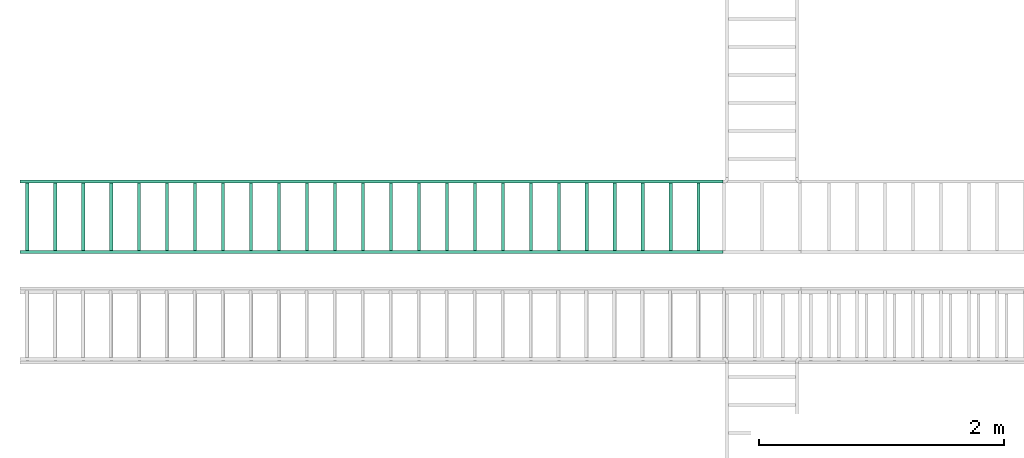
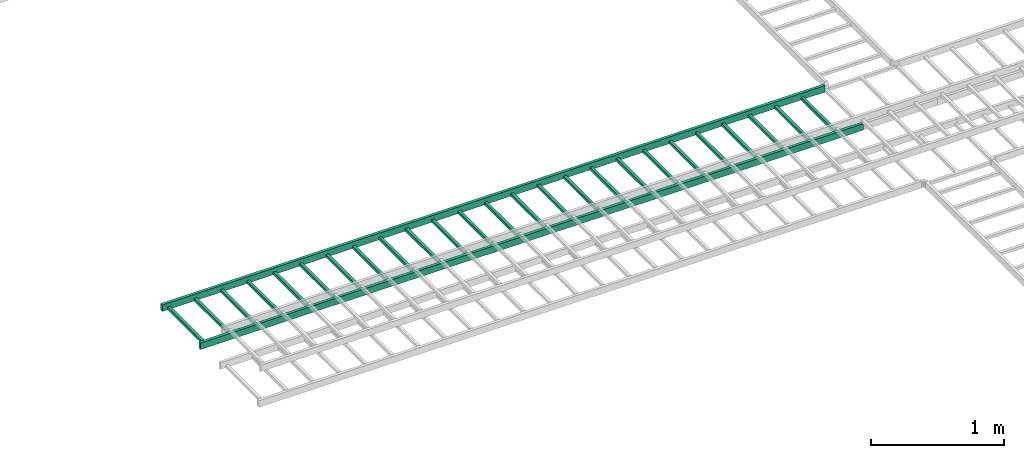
# One storey, part 5 of 7: 1 flow segment.
"""IFC2X3 building model written with IfcOpenShell, lengths in millimetres."""

import ifcopenshell
import ifcopenshell.guid

model = None  # the IFC model being written
_history = None  # IfcOwnerHistory: only IFC2X3 demands one
_inside = {}  # id of a spatial element -> (the spatial element, [elements in it])
_under = {}  # id of a project, library or spatial element -> (it, [spatial elements below it])
_declared = {}  # id of a project -> (the project, [libraries it declares])
_typed = {}  # id of a type object -> (the type object, [elements of that type])
_made_of = {}  # id of a material, layer set ... -> (it, [elements and type objects made of it])


def new_model(schema):
    """Start an empty IFC model of exactly this schema.

    Asked for "IFC4X3", IfcOpenShell would pick the latest addendum, in which some entities
    have other attributes; the version numbers below select the first issue.
    IFC2X3 requires an IfcOwnerHistory on every rooted entity: one is made here for all.
    """
    global model, _history
    if schema == "IFC4X3":
        model = ifcopenshell.file(schema_version=(4, 3, 0, 0))
    else:
        model = ifcopenshell.file(schema=schema)
    _inside.clear()
    _under.clear()
    _declared.clear()
    _typed.clear()
    _made_of.clear()
    _history = None
    if model.schema == "IFC2X3":
        org = make("IfcOrganization", Name="unknown")
        user = make(
            "IfcPersonAndOrganization",
            ThePerson=make("IfcPerson", FamilyName="unknown"),
            TheOrganization=org,
        )
        app = make(
            "IfcApplication",
            ApplicationDeveloper=org,
            Version="unknown",
            ApplicationFullName="unknown",
            ApplicationIdentifier="unknown",
        )
        _history = make(
            "IfcOwnerHistory",
            OwningUser=user,
            OwningApplication=app,
            ChangeAction="ADDED",
            CreationDate=0,
        )
    return model


def make(cls, **values):
    """One entity of the class cls with the attributes given. An attribute that is None is left unset."""
    return model.create_entity(
        cls, **{name: value for name, value in values.items() if value is not None}
    )


def entity(cls, *values):
    """Any entity or typed value of the class cls, its attributes in the order of the schema. None: left unset."""
    e = model.create_entity(cls)
    for i, value in enumerate(values):
        if value is not None:
            e[i] = value
    return e


def rooted(cls, **values):
    """An entity with a GlobalId (a new one), such as an element, a storey or a relation."""
    return make(cls, GlobalId=ifcopenshell.guid.new(), OwnerHistory=_history, **values)


def si_unit(unit_type, name, prefix=None):
    """IfcSIUnit, for example si_unit("LENGTHUNIT", "METRE", prefix="MILLI")."""
    return make("IfcSIUnit", UnitType=unit_type, Prefix=prefix, Name=name)


def converted_unit(unit_type, name, factor, base, dimensions=None, offset=None):
    """IfcConversionBasedUnit, such as the inch: factor (a typed value) times the base unit."""
    return make(
        "IfcConversionBasedUnit"
        if offset is None
        else "IfcConversionBasedUnitWithOffset",
        ConversionOffset=offset,
        Dimensions=None
        if dimensions is None
        else entity("IfcDimensionalExponents", *dimensions),
        UnitType=unit_type,
        Name=name,
        ConversionFactor=make(
            "IfcMeasureWithUnit", ValueComponent=factor, UnitComponent=base
        ),
    )


def derived_unit(unit_type, elements):
    """IfcDerivedUnit: a product of units, each with its exponent."""
    return make(
        "IfcDerivedUnit",
        Elements=[
            make("IfcDerivedUnitElement", Unit=unit, Exponent=power)
            for unit, power in elements
        ],
        UnitType=unit_type,
    )


def assignment(units):
    """IfcUnitAssignment: the units of a project."""
    return None if units is None else make("IfcUnitAssignment", Units=units)


def point(xyz):
    """IfcCartesianPoint."""
    return None if xyz is None else make("IfcCartesianPoint", Coordinates=xyz)


def direction(xyz):
    """IfcDirection."""
    return None if xyz is None else make("IfcDirection", DirectionRatios=xyz)


def frame(location, z_axis=None, x_axis=None):
    """IfcAxis2Placement3D, a coordinate frame: its origin and axes. An axis left out is left unset."""
    return make(
        "IfcAxis2Placement3D",
        Location=point(location),
        Axis=direction(z_axis),
        RefDirection=direction(x_axis),
    )


def place(relative_to, where):
    """IfcLocalPlacement: puts the frame where relative to a parent placement (None: the world)."""
    return make(
        "IfcLocalPlacement", PlacementRelTo=relative_to, RelativePlacement=where
    )


def context(
    kind, dimensions, precision=None, world=None, true_north=None, identifier=None
):
    """IfcGeometricRepresentationContext, for example the 3D "Model" context."""
    return make(
        "IfcGeometricRepresentationContext",
        ContextIdentifier=identifier,
        ContextType=kind,
        CoordinateSpaceDimension=dimensions,
        Precision=precision,
        WorldCoordinateSystem=world,
        TrueNorth=true_north,
    )


def subcontext(parent, identifier, kind, view, scale=None):
    """IfcGeometricRepresentationSubContext, for example "Body" below "Model"."""
    return make(
        "IfcGeometricRepresentationSubContext",
        ContextIdentifier=identifier,
        ContextType=kind,
        ParentContext=parent,
        TargetScale=scale,
        TargetView=view,
    )


def project(units=None, contexts=None):
    """IfcProject with its units and contexts."""
    return rooted(
        "IfcProject",
        Name="project",
        RepresentationContexts=contexts,
        UnitsInContext=assignment(units),
    )


def spatial(cls, under=None, at=None, **own):
    """A site, building, storey or space (cls), placed at a placement, below another one or the project."""
    s = rooted(cls, ObjectPlacement=at, **own)
    if under is not None:
        _under.setdefault(under.id(), (under, []))[1].append(s)
    return s


def faces_of(points, faces, orient=None, outer=None):
    """IfcFace entities. A face is a list of loops; a loop is a list of indices into points, from 0.

    orient and outer hold one flag for each loop. By default every Orientation is true, the
    first loop of a face is its IfcFaceOuterBound and the others are IfcFaceBound.
    """
    made = []
    for i, loops in enumerate(faces):
        bounds = []
        for j, loop in enumerate(loops):
            is_outer = j == 0 if outer is None else outer[i][j]
            bounds.append(
                make(
                    "IfcFaceOuterBound" if is_outer else "IfcFaceBound",
                    Bound=make("IfcPolyLoop", Polygon=[points[k] for k in loop]),
                    Orientation=True if orient is None else orient[i][j],
                )
            )
        made.append(make("IfcFace", Bounds=bounds))
    return made


def faceted_brep(points, faces, orient=None, outer=None, voids=None):
    """IfcFacetedBrep: a solid bounded by flat faces; with voids (closed shells), ...WithVoids."""
    shared = [point(p) for p in points]
    hull = make("IfcClosedShell", CfsFaces=faces_of(shared, faces, orient, outer))
    if voids is None:
        return make("IfcFacetedBrep", Outer=hull)
    return make(
        "IfcFacetedBrepWithVoids",
        Outer=hull,
        Voids=[
            make(cls, CfsFaces=faces_of(shared, fs, o, b)) for cls, fs, o, b in voids
        ],
    )


def shape(context_of_items, identifier, shape_type, items):
    """IfcShapeRepresentation: the items that make up one representation, for example the "Body"."""
    return make(
        "IfcShapeRepresentation",
        ContextOfItems=context_of_items,
        RepresentationIdentifier=identifier,
        RepresentationType=shape_type,
        Items=items,
    )


def made_of(thing, what):
    """Note that an element or type object is made of a material, layer set ...; save() writes the relation."""
    if what is not None:
        _made_of.setdefault(what.id(), (what, []))[1].append(thing)
    return thing


def type_object(cls, material=None, **own):
    """A type object (cls), such as IfcWallType, which elements share."""
    return made_of(rooted(cls, **own), material)


def element(
    cls,
    number,
    at=None,
    inside=None,
    cuts=None,
    type_object=None,
    material=None,
    context=None,
    identifier="Body",
    shape_type=None,
    held_by="IfcProductDefinitionShape",
    body=None,
    shapes=None,
    **own,
):
    """One element of the class cls, such as IfcWall. Its Tag is "e" and its number.

    at: its placement. inside: the storey or other place that contains it. cuts: it is an
    opening in that element (IfcRelVoidsElement). A single representation is given by context,
    identifier, shape_type and body (its items); several are given by shapes. held_by: the class
    of the entity that holds the representations. save() writes the other relations.
    """
    e = rooted(cls, Tag="e%d" % number, ObjectPlacement=at, **own)
    if body is not None:
        shapes = [shape(context, identifier, shape_type, body)]
    if shapes is not None:
        e.Representation = make(held_by, Representations=shapes)
    if inside is not None:
        _inside.setdefault(inside.id(), (inside, []))[1].append(e)
    if cuts is not None:
        rooted(
            "IfcRelVoidsElement", RelatingBuildingElement=cuts, RelatedOpeningElement=e
        )
    if type_object is not None:
        _typed.setdefault(type_object.id(), (type_object, []))[1].append(e)
    return made_of(e, material)


def aggregate(whole, parts):
    """IfcRelAggregates: a whole, such as a stair, and the parts it consists of."""
    return rooted("IfcRelAggregates", RelatingObject=whole, RelatedObjects=parts)


def save(model, path):
    """Write the relations noted so far, then the file.

    IfcRelAggregates (storeys below a building ...), IfcRelContainedInSpatialStructure (elements
    in a storey), IfcRelDefinesByType, IfcRelAssociatesMaterial and IfcRelDeclares: one each for
    every whole, place, type object, material and project.
    """
    for whole, parts in _under.values():
        aggregate(whole, parts)
    for where, things in _inside.values():
        rooted(
            "IfcRelContainedInSpatialStructure",
            RelatedElements=things,
            RelatingStructure=where,
        )
    for kind, things in _typed.values():
        rooted("IfcRelDefinesByType", RelatedObjects=things, RelatingType=kind)
    for what, things in _made_of.values():
        rooted("IfcRelAssociatesMaterial", RelatedObjects=things, RelatingMaterial=what)
    for by, libraries in _declared.values():
        rooted("IfcRelDeclares", RelatingContext=by, RelatedDefinitions=libraries)
    model.write(path)


model = new_model("IFC2X3")

# Units and contexts
model_context = context("Model", 3, precision=0.01, world=frame((0.0, 4.29681676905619e-09, 0.0)), true_north=direction((4.01073788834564e-13, 1.0)))
plan_context = context("Plan", 3, precision=0.01, world=frame((0.0, 4.29681676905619e-09, 0.0)), true_north=direction((4.01073788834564e-13, 1.0)))
body_context = subcontext(model_context, "Body", "Model", "MODEL_VIEW")
ifc_project = project(units=[converted_unit("PLANEANGLEUNIT", "DEGREE", entity("IfcPositiveLengthMeasure", 0.0174532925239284), si_unit("PLANEANGLEUNIT", "RADIAN"), dimensions=[0, 0, 0, 0, 0, 0, 0]), si_unit("AREAUNIT", "SQUARE_METRE"), si_unit("LENGTHUNIT", "METRE", prefix="MILLI"), si_unit("MASSUNIT", "GRAM", prefix="KILO"), si_unit("POWERUNIT", "WATT"), si_unit("PRESSUREUNIT", "PASCAL", prefix="KILO"), si_unit("FORCEUNIT", "NEWTON", prefix="KILO"), si_unit("ELECTRICVOLTAGEUNIT", "VOLT"), si_unit("ELECTRICCURRENTUNIT", "AMPERE"), si_unit("THERMODYNAMICTEMPERATUREUNIT", "DEGREE_CELSIUS"), si_unit("TIMEUNIT", "SECOND"), si_unit("VOLUMEUNIT", "CUBIC_METRE"), derived_unit("LINEARVELOCITYUNIT", [(si_unit("LENGTHUNIT", "METRE"), 1), (si_unit("TIMEUNIT", "SECOND"), -1)]), derived_unit("VOLUMETRICFLOWRATEUNIT", [(si_unit("VOLUMEUNIT", "CUBIC_METRE"), 1), (si_unit("TIMEUNIT", "SECOND"), -1)]), derived_unit("THERMALTRANSMITTANCEUNIT", [(si_unit("POWERUNIT", "WATT"), 1), (si_unit("THERMODYNAMICTEMPERATUREUNIT", "KELVIN"), -1), (si_unit("AREAUNIT", "SQUARE_METRE"), -1)]), derived_unit("SOUNDPRESSUREUNIT", [(si_unit("PRESSUREUNIT", "PASCAL"), 1)])], contexts=[model_context, plan_context])

# Site, building, storey
site_placement = place(None, frame((0.0, -4.29681676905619e-09, 0.0), z_axis=(0.0, 0.0, 1.0), x_axis=(1.0, 0.0, 0.0)))
site = spatial("IfcSite", under=ifc_project, at=site_placement, Name="ENGM", CompositionType="ELEMENT")
building_placement = place(site_placement, frame((0.0, 4.29681676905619e-09, 0.0), z_axis=(0.0, 0.0, 1.0), x_axis=(1.0, 0.0, 0.0)))
building = spatial("IfcBuilding", under=site, at=building_placement, Name="TS", CompositionType="ELEMENT")
storey_placement = place(building_placement, frame((0.0, 0.0, 207370.0), z_axis=(0.0, 0.0, 1.0), x_axis=(1.0, 0.0, 0.0)))
storey = spatial("IfcBuildingStorey", under=building, at=storey_placement, Name="Nivå E", CompositionType="ELEMENT", Elevation=207370.0)

# Flow segment
cable_carrier_segment_type = type_object("IfcCableCarrierSegmentType", Name="Kabelbro", PredefinedType="CABLELADDERSEGMENT")
flow_segment_placement = place(storey_placement, frame((711525.70397, 440899.11712, 2635.0), z_axis=(0.0, 0.0, 1.0), x_axis=(1.0, 0.0, 0.0)))
element("IfcFlowSegment", 1, at=flow_segment_placement, inside=storey, type_object=cable_carrier_segment_type, Name="Kabelbro", context=body_context, shape_type="Brep", body=[
    faceted_brep([(2984.5001, 274.60001, -4.6), (2984.5001, -274.60001, -30.0), (2984.5001, -274.60001, -4.6), (2984.5001, 274.60001, -30.0), (2959.0999, 274.60001, -30.0), (2959.0999, -274.60001, -4.6), (2959.0999, -274.60001, -30.0), (2959.0999, 274.60001, -4.6), (3213.1001, 274.60001, -4.6), (3213.1001, -274.60001, -30.0), (3213.1001, -274.60001, -4.6), (3213.1001, 274.60001, -30.0), (3187.6999, 274.60001, -30.0), (3187.6999, -274.60001, -4.6), (3187.6999, -274.60001, -30.0), (3187.6999, 274.60001, -4.6), (3441.7001, 274.60001, -4.6), (3441.7001, -274.60001, -30.0), (3441.7001, -274.60001, -4.6), (3441.7001, 274.60001, -30.0), (3416.2999, 274.60001, -30.0), (3416.2999, -274.60001, -4.6), (3416.2999, -274.60001, -30.0), (3416.2999, 274.60001, -4.6), (3670.3001, 274.60001, -4.6), (3670.3001, -274.60001, -30.0), (3670.3001, -274.60001, -4.6), (3670.3001, 274.60001, -30.0), (3644.8999, 274.60001, -30.0), (3644.8999, -274.60001, -4.6), (3644.8999, -274.60001, -30.0), (3644.8999, 274.60001, -4.6), (3898.9001, 274.60001, -4.6), (3898.9001, -274.60001, -30.0), (3898.9001, -274.60001, -4.6), (3898.9001, 274.60001, -30.0), (3873.4999, 274.60001, -30.0), (3873.4999, -274.60001, -4.6), (3873.4999, -274.60001, -30.0), (3873.4999, 274.60001, -4.6), (4127.5001, 274.60001, -4.6), (4127.5001, -274.60001, -30.0), (4127.5001, -274.60001, -4.6), (4127.5001, 274.60001, -30.0), (4102.0999, 274.60001, -30.0), (4102.0999, -274.60001, -4.6), (4102.0999, -274.60001, -30.0), (4102.0999, 274.60001, -4.6), (4356.1001, 274.60001, -4.6), (4356.1001, -274.60001, -30.0), (4356.1001, -274.60001, -4.6), (4356.1001, 274.60001, -30.0), (4330.6999, 274.60001, -30.0), (4330.6999, -274.60001, -4.6), (4330.6999, -274.60001, -30.0), (4330.6999, 274.60001, -4.6), (4584.7001, 274.60001, -4.6), (4584.7001, -274.60001, -30.0), (4584.7001, -274.60001, -4.6), (4584.7001, 274.60001, -30.0), (4559.2999, 274.60001, -30.0), (4559.2999, -274.60001, -4.6), (4559.2999, -274.60001, -30.0), (4559.2999, 274.60001, -4.6), (4813.3001, 274.60001, -4.6), (4813.3001, -274.60001, -30.0), (4813.3001, -274.60001, -4.6), (4813.3001, 274.60001, -30.0), (4787.8999, 274.60001, -30.0), (4787.8999, -274.60001, -4.6), (4787.8999, -274.60001, -30.0), (4787.8999, 274.60001, -4.6), (5041.89981, 274.60001, -4.6), (5041.89981, -274.60001, -30.0), (5041.89981, -274.60001, -4.6), (5041.89981, 274.60001, -30.0), (5016.50019, 274.60001, -30.0), (5016.50019, -274.60001, -4.6), (5016.50019, -274.60001, -30.0), (5016.50019, 274.60001, -4.6), (5270.49981, 274.60001, -4.6), (5270.49981, -274.60001, -30.0), (5270.49981, -274.60001, -4.6), (5270.49981, 274.60001, -30.0), (5245.10019, 274.60001, -30.0), (5245.10019, -274.60001, -4.6), (5245.10019, -274.60001, -30.0), (5245.10019, 274.60001, -4.6), (5499.09981, 274.60001, -4.6), (5499.09981, -274.60001, -30.0), (5499.09981, -274.60001, -4.6), (5499.09981, 274.60001, -30.0), (5473.70019, 274.60001, -30.0), (5473.70019, -274.60001, -4.6), (5473.70019, -274.60001, -30.0), (5473.70019, 274.60001, -4.6), (5727.69981, 274.60001, -4.6), (5727.69981, -274.60001, -30.0), (5727.69981, -274.60001, -4.6), (5727.69981, 274.60001, -30.0), (5702.30019, 274.60001, -30.0), (5702.30019, -274.60001, -4.6), (5702.30019, -274.60001, -30.0), (5702.30019, 274.60001, -4.6), (5956.29981, 274.60001, -4.6), (5956.29981, -274.60001, -30.0), (5956.29981, -274.60001, -4.6), (5956.29981, 274.60001, -30.0), (5930.90019, 274.60001, -30.0), (5930.90019, -274.60001, -4.6), (5930.90019, -274.60001, -30.0), (5930.90019, 274.60001, -4.6), (6184.89981, 274.60001, -4.6), (6184.89981, -274.60001, -30.0), (6184.89981, -274.60001, -4.6), (6184.89981, 274.60001, -30.0), (6159.50019, 274.60001, -30.0), (6159.50019, -274.60001, -4.6), (6159.50019, -274.60001, -30.0), (6159.50019, 274.60001, -4.6), (6413.49981, 274.60001, -4.6), (6413.49981, -274.60001, -30.0), (6413.49981, -274.60001, -4.6), (6413.49981, 274.60001, -30.0), (6388.10019, 274.60001, -30.0), (6388.10019, -274.60001, -4.6), (6388.10019, -274.60001, -30.0), (6388.10019, 274.60001, -4.6), (6642.09981, 274.60001, -4.6), (6642.09981, -274.60001, -30.0), (6642.09981, -274.60001, -4.6), (6642.09981, 274.60001, -30.0), (6616.70019, 274.60001, -30.0), (6616.70019, -274.60001, -4.6), (6616.70019, -274.60001, -30.0), (6616.70019, 274.60001, -4.6), (6870.69981, 274.60001, -4.6), (6870.69981, -274.60001, -30.0), (6870.69981, -274.60001, -4.6), (6870.69981, 274.60001, -30.0), (6845.30019, 274.60001, -30.0), (6845.30019, -274.60001, -4.6), (6845.30019, -274.60001, -30.0), (6845.30019, 274.60001, -4.6), (7099.29981, 274.60001, -4.6), (7099.29981, -274.60001, -30.0), (7099.29981, -274.60001, -4.6), (7099.29981, 274.60001, -30.0), (7073.90019, 274.60001, -30.0), (7073.90019, -274.60001, -4.6), (7073.90019, -274.60001, -30.0), (7073.90019, 274.60001, -4.6), (7327.89981, 274.60001, -4.6), (7327.89981, -274.60001, -30.0), (7327.89981, -274.60001, -4.6), (7327.89981, 274.60001, -30.0), (7302.50019, 274.60001, -30.0), (7302.50019, -274.60001, -4.6), (7302.50019, -274.60001, -30.0), (7302.50019, 274.60001, -4.6), (7556.49981, 274.60001, -4.6), (7556.49981, -274.60001, -30.0), (7556.49981, -274.60001, -4.6), (7556.49981, 274.60001, -30.0), (7531.10019, 274.60001, -30.0), (7531.10019, -274.60001, -4.6), (7531.10019, -274.60001, -30.0), (7531.10019, 274.60001, -4.6), (7785.09981, 274.60001, -4.6), (7785.09981, -274.60001, -30.0), (7785.09981, -274.60001, -4.6), (7785.09981, 274.60001, -30.0), (7759.70019, 274.60001, -30.0), (7759.70019, -274.60001, -4.6), (7759.70019, -274.60001, -30.0), (7759.70019, 274.60001, -4.6), (8013.69981, 274.60001, -4.6), (8013.69981, -274.60001, -30.0), (8013.69981, -274.60001, -4.6), (8013.69981, 274.60001, -30.0), (7988.30019, 274.60001, -30.0), (7988.30019, -274.60001, -4.6), (7988.30019, -274.60001, -30.0), (7988.30019, 274.60001, -4.6), (8242.29981, 274.60001, -4.6), (8242.29981, -274.60001, -30.0), (8242.29981, -274.60001, -4.6), (8242.29981, 274.60001, -30.0), (8216.90019, 274.60001, -30.0), (8216.90019, -274.60001, -4.6), (8216.90019, -274.60001, -30.0), (8216.90019, 274.60001, -4.6), (8470.89981, 274.60001, -4.6), (8470.89981, -274.60001, -30.0), (8470.89981, -274.60001, -4.6), (8470.89981, 274.60001, -30.0), (8445.50019, 274.60001, -30.0), (8445.50019, -274.60001, -4.6), (8445.50019, -274.60001, -30.0), (8445.50019, 274.60001, -4.6), (8655.66237, -274.60001, -30.0), (8655.66237, -300.0, -30.0), (8655.66237, -300.0, 30.0), (8655.66237, -274.60001, 30.0), (8655.66237, 300.0, -30.0), (8655.66237, 274.60001, -30.0), (8655.66237, 274.60001, 30.0), (8655.66237, 300.0, 30.0), (2912.28352999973, -300.0, -9.81240437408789), (2912.28352999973, -300.0, 30.0), (2912.28352999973, -300.0, -30.0), (2912.28352999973, -291.453921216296, 30.0), (2912.28352999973, -274.60001, 30.0), (2912.28352999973, -274.60001, 9.81240437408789), (2912.28352999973, -274.60001, -30.0), (2912.28352999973, -283.146088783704, -30.0), (2912.28352999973, 300.0, 9.81240437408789), (2912.28352999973, 300.0, -30.0), (2912.28352999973, 300.0, 30.0), (2912.28352999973, 291.453921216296, -30.0), (2912.28352999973, 274.60001, -30.0), (2912.28352999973, 274.60001, -9.81240437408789), (2912.28352999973, 274.60001, 30.0), (2912.28352999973, 283.146088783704, 30.0)], [[[0, 1, 2]], [[1, 0, 3]], [[4, 5, 6]], [[5, 4, 7]], [[8, 9, 10]], [[9, 8, 11]], [[12, 13, 14]], [[13, 12, 15]], [[16, 17, 18]], [[17, 16, 19]], [[20, 21, 22]], [[21, 20, 23]], [[24, 25, 26]], [[25, 24, 27]], [[28, 29, 30]], [[29, 28, 31]], [[32, 33, 34]], [[33, 32, 35]], [[36, 37, 38]], [[37, 36, 39]], [[40, 41, 42]], [[41, 40, 43]], [[44, 45, 46]], [[45, 44, 47]], [[48, 49, 50]], [[49, 48, 51]], [[52, 53, 54]], [[53, 52, 55]], [[56, 57, 58]], [[57, 56, 59]], [[60, 61, 62]], [[61, 60, 63]], [[64, 65, 66]], [[65, 64, 67]], [[68, 69, 70]], [[69, 68, 71]], [[72, 73, 74]], [[73, 72, 75]], [[76, 77, 78]], [[77, 76, 79]], [[80, 81, 82]], [[81, 80, 83]], [[84, 85, 86]], [[85, 84, 87]], [[88, 89, 90]], [[89, 88, 91]], [[92, 93, 94]], [[93, 92, 95]], [[96, 97, 98]], [[97, 96, 99]], [[100, 101, 102]], [[101, 100, 103]], [[104, 105, 106]], [[105, 104, 107]], [[108, 109, 110]], [[109, 108, 111]], [[112, 113, 114]], [[113, 112, 115]], [[116, 117, 118]], [[117, 116, 119]], [[120, 121, 122]], [[121, 120, 123]], [[124, 125, 126]], [[125, 124, 127]], [[128, 129, 130]], [[129, 128, 131]], [[132, 133, 134]], [[133, 132, 135]], [[136, 137, 138]], [[137, 136, 139]], [[140, 141, 142]], [[141, 140, 143]], [[144, 145, 146]], [[145, 144, 147]], [[148, 149, 150]], [[149, 148, 151]], [[152, 153, 154]], [[153, 152, 155]], [[156, 157, 158]], [[157, 156, 159]], [[160, 161, 162]], [[161, 160, 163]], [[164, 165, 166]], [[165, 164, 167]], [[168, 169, 170]], [[169, 168, 171]], [[172, 173, 174]], [[173, 172, 175]], [[176, 177, 178]], [[177, 176, 179]], [[180, 181, 182]], [[181, 180, 183]], [[184, 185, 186]], [[185, 184, 187]], [[188, 189, 190]], [[189, 188, 191]], [[192, 193, 194]], [[193, 192, 195]], [[196, 197, 198]], [[197, 196, 199]], [[5, 2, 1]], [[1, 6, 5]], [[3, 0, 7]], [[7, 4, 3]], [[13, 10, 9]], [[9, 14, 13]], [[11, 8, 15]], [[15, 12, 11]], [[21, 18, 17]], [[17, 22, 21]], [[19, 16, 23]], [[23, 20, 19]], [[29, 26, 25]], [[25, 30, 29]], [[27, 24, 31]], [[31, 28, 27]], [[37, 34, 33]], [[33, 38, 37]], [[35, 32, 39]], [[39, 36, 35]], [[45, 42, 41]], [[41, 46, 45]], [[43, 40, 47]], [[47, 44, 43]], [[53, 50, 49]], [[49, 54, 53]], [[51, 48, 55]], [[55, 52, 51]], [[61, 58, 57]], [[57, 62, 61]], [[59, 56, 63]], [[63, 60, 59]], [[69, 66, 65]], [[65, 70, 69]], [[67, 64, 71]], [[71, 68, 67]], [[77, 74, 73]], [[73, 78, 77]], [[75, 72, 79]], [[79, 76, 75]], [[85, 82, 81]], [[81, 86, 85]], [[83, 80, 87]], [[87, 84, 83]], [[93, 90, 89]], [[89, 94, 93]], [[91, 88, 95]], [[95, 92, 91]], [[101, 98, 97]], [[97, 102, 101]], [[99, 96, 103]], [[103, 100, 99]], [[109, 106, 105]], [[105, 110, 109]], [[107, 104, 111]], [[111, 108, 107]], [[117, 114, 113]], [[113, 118, 117]], [[115, 112, 119]], [[119, 116, 115]], [[125, 122, 121]], [[121, 126, 125]], [[123, 120, 127]], [[127, 124, 123]], [[133, 130, 129]], [[129, 134, 133]], [[131, 128, 135]], [[135, 132, 131]], [[141, 138, 137]], [[137, 142, 141]], [[139, 136, 143]], [[143, 140, 139]], [[149, 146, 145]], [[145, 150, 149]], [[147, 144, 151]], [[151, 148, 147]], [[157, 154, 153]], [[153, 158, 157]], [[155, 152, 159]], [[159, 156, 155]], [[165, 162, 161]], [[161, 166, 165]], [[163, 160, 167]], [[167, 164, 163]], [[173, 170, 169]], [[169, 174, 173]], [[171, 168, 175]], [[175, 172, 171]], [[181, 178, 177]], [[177, 182, 181]], [[179, 176, 183]], [[183, 180, 179]], [[189, 186, 185]], [[185, 190, 189]], [[187, 184, 191]], [[191, 188, 187]], [[197, 194, 193]], [[193, 198, 197]], [[195, 192, 199]], [[199, 196, 195]], [[0, 2, 5]], [[5, 7, 0]], [[4, 6, 1]], [[1, 3, 4]], [[8, 10, 13]], [[13, 15, 8]], [[12, 14, 9]], [[9, 11, 12]], [[16, 18, 21]], [[21, 23, 16]], [[20, 22, 17]], [[17, 19, 20]], [[24, 26, 29]], [[29, 31, 24]], [[28, 30, 25]], [[25, 27, 28]], [[32, 34, 37]], [[37, 39, 32]], [[36, 38, 33]], [[33, 35, 36]], [[40, 42, 45]], [[45, 47, 40]], [[44, 46, 41]], [[41, 43, 44]], [[48, 50, 53]], [[53, 55, 48]], [[52, 54, 49]], [[49, 51, 52]], [[56, 58, 61]], [[61, 63, 56]], [[60, 62, 57]], [[57, 59, 60]], [[64, 66, 69]], [[69, 71, 64]], [[68, 70, 65]], [[65, 67, 68]], [[72, 74, 77]], [[77, 79, 72]], [[76, 78, 73]], [[73, 75, 76]], [[80, 82, 85]], [[85, 87, 80]], [[84, 86, 81]], [[81, 83, 84]], [[88, 90, 93]], [[93, 95, 88]], [[92, 94, 89]], [[89, 91, 92]], [[96, 98, 101]], [[101, 103, 96]], [[100, 102, 97]], [[97, 99, 100]], [[104, 106, 109]], [[109, 111, 104]], [[108, 110, 105]], [[105, 107, 108]], [[112, 114, 117]], [[117, 119, 112]], [[116, 118, 113]], [[113, 115, 116]], [[120, 122, 125]], [[125, 127, 120]], [[124, 126, 121]], [[121, 123, 124]], [[128, 130, 133]], [[133, 135, 128]], [[132, 134, 129]], [[129, 131, 132]], [[136, 138, 141]], [[141, 143, 136]], [[140, 142, 137]], [[137, 139, 140]], [[144, 146, 149]], [[149, 151, 144]], [[148, 150, 145]], [[145, 147, 148]], [[152, 154, 157]], [[157, 159, 152]], [[156, 158, 153]], [[153, 155, 156]], [[160, 162, 165]], [[165, 167, 160]], [[164, 166, 161]], [[161, 163, 164]], [[168, 170, 173]], [[173, 175, 168]], [[172, 174, 169]], [[169, 171, 172]], [[176, 178, 181]], [[181, 183, 176]], [[180, 182, 177]], [[177, 179, 180]], [[184, 186, 189]], [[189, 191, 184]], [[188, 190, 185]], [[185, 187, 188]], [[192, 194, 197]], [[197, 199, 192]], [[196, 198, 193]], [[193, 195, 196]], [[200, 201, 202]], [[202, 203, 200]], [[204, 205, 206]], [[206, 207, 204]], [[208, 209, 202]], [[210, 208, 202, 201]], [[211, 212, 203]], [[209, 211, 203, 202]], [[213, 214, 200]], [[212, 213, 200, 203]], [[215, 210, 201]], [[214, 215, 201, 200]], [[216, 217, 204]], [[218, 216, 204, 207]], [[219, 220, 205]], [[217, 219, 205, 204]], [[221, 222, 206]], [[220, 221, 206, 205]], [[223, 218, 207]], [[222, 223, 207, 206]], [[210, 215, 214, 213, 212, 211, 209, 208]], [[218, 223, 222, 221, 220, 219, 217, 216]]], orient=[[False], [False], [False], [False], [False], [False], [False], [False], [False], [False], [False], [False], [False], [False], [False], [False], [False], [False], [False], [False], [False], [False], [False], [False], [False], [False], [False], [False], [False], [False], [False], [False], [False], [False], [False], [False], [False], [False], [False], [False], [False], [False], [False], [False], [False], [False], [False], [False], [False], [False], [False], [False], [False], [False], [False], [False], [False], [False], [False], [False], [False], [False], [False], [False], [False], [False], [False], [False], [False], [False], [False], [False], [False], [False], [False], [False], [False], [False], [False], [False], [False], [False], [False], [False], [False], [False], [False], [False], [False], [False], [False], [False], [False], [False], [False], [False], [False], [False], [False], [False], [False], [False], [False], [False], [False], [False], [False], [False], [False], [False], [False], [False], [False], [False], [False], [False], [False], [False], [False], [False], [False], [False], [False], [False], [False], [False], [False], [False], [False], [False], [False], [False], [False], [False], [False], [False], [False], [False], [False], [False], [False], [False], [False], [False], [False], [False], [False], [False], [False], [False], [False], [False], [False], [False], [False], [False], [False], [False], [False], [False], [False], [False], [False], [False], [False], [False], [False], [False], [False], [False], [False], [False], [False], [False], [False], [False], [False], [False], [False], [False], [False], [False], [False], [False], [False], [False], [False], [False], [False], [False], [False], [False], [False], [False], [False], [False], [False], [False], [False], [False], [False], [False], [False], [False], [False], [False], [False], [False], [False], [False], [False], [False], [False], [False], [False], [False], [False], [False], [False], [False], [False], [False], [False], [False], [False], [False], [False], [False], [False], [False], [False], [False], [False], [False], [False], [False], [False], [False], [False], [False], [False], [False], [False], [False], [False], [False], [False], [False], [False], [False], [False], [False], [False], [False], [False], [False], [False], [False], [False], [False], [False], [False], [False], [False], [False], [False], [False], [False], [False], [False], [False], [False], [False], [False], [False], [False], [False], [False], [False], [False], [False], [False], [False], [False], [False], [False], [False], [False], [False], [False], [False], [False], [False], [False], [False], [False], [False], [False], [False], [False], [False], [False], [False], [False], [False], [False], [False], [False], [False], [False], [False], [False], [False], [False], [False], [False], [False], [False], [False], [False], [False], [False]]),
])

save(model, "model.ifc")
